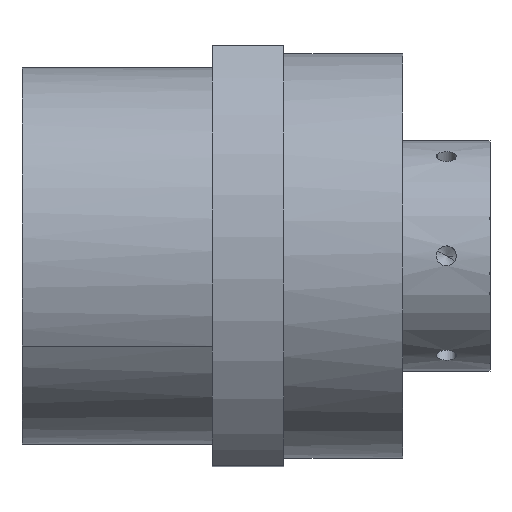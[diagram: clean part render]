
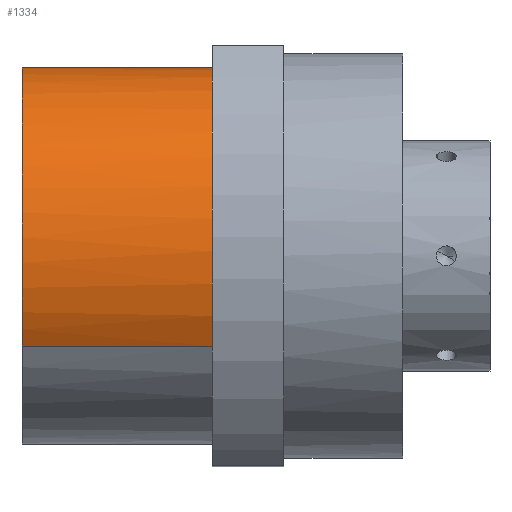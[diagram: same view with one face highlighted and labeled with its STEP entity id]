
A CAD part, top view. The second image highlights one B-rep face of the part: STEP entity #1334.
In plain terms, the highlighted cylindrical face has radius 47.5 mm (diameter 95 mm), a partial arc.
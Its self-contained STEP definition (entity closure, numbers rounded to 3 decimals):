
#697=CARTESIAN_POINT('Vertex',(-66.,-22.773,41.685)) ;
#699=CARTESIAN_POINT('Vertex',(-66.,22.773,-41.685)) ;
#703=CARTESIAN_POINT('Control Point',(-66.,22.773,-41.685)) ;
#704=CARTESIAN_POINT('Control Point',(-66.,26.625,-39.581)) ;
#705=CARTESIAN_POINT('Control Point',(-66.,30.234,-37.032)) ;
#706=CARTESIAN_POINT('Control Point',(-66.,33.531,-34.075)) ;
#707=CARTESIAN_POINT('Control Point',(-66.,39.383,-27.453)) ;
#708=CARTESIAN_POINT('Control Point',(-66.,43.571,-19.672)) ;
#709=CARTESIAN_POINT('Control Point',(-66.,45.205,-15.555)) ;
#710=CARTESIAN_POINT('Control Point',(-66.,47.491,-7.019)) ;
#711=CARTESIAN_POINT('Control Point',(-66.,47.772,1.814)) ;
#712=CARTESIAN_POINT('Control Point',(-66.,47.399,6.227)) ;
#713=CARTESIAN_POINT('Control Point',(-66.,45.64,14.887)) ;
#714=CARTESIAN_POINT('Control Point',(-66.,41.954,22.918)) ;
#715=CARTESIAN_POINT('Control Point',(-66.,39.653,26.703)) ;
#716=CARTESIAN_POINT('Control Point',(-66.,34.219,33.671)) ;
#717=CARTESIAN_POINT('Control Point',(-66.,27.339,39.217)) ;
#718=CARTESIAN_POINT('Control Point',(-66.,23.592,41.579)) ;
#719=CARTESIAN_POINT('Control Point',(-66.,15.621,45.394)) ;
#720=CARTESIAN_POINT('Control Point',(-66.,6.991,47.292)) ;
#721=CARTESIAN_POINT('Control Point',(-66.,2.584,47.736)) ;
#722=CARTESIAN_POINT('Control Point',(-66.,-5.366,47.612)) ;
#723=CARTESIAN_POINT('Control Point',(-66.,-13.102,45.86)) ;
#724=CARTESIAN_POINT('Control Point',(-66.,-16.458,44.766)) ;
#725=CARTESIAN_POINT('Control Point',(-66.,-19.693,43.368)) ;
#726=CARTESIAN_POINT('Control Point',(-66.,-22.773,41.685)) ;
#1292=CARTESIAN_POINT('Line Origine',(-84.861,22.773,-41.685)) ;
#1296=CARTESIAN_POINT('Vertex',(-18.,22.773,-41.685)) ;
#1303=CARTESIAN_POINT('Vertex',(-18.,-22.773,41.685)) ;
#1306=CARTESIAN_POINT('Line Origine',(-84.861,-22.773,41.685)) ;
#1318=CARTESIAN_POINT('Axis2P3D Location',(-84.861,0.,0.)) ;
#1323=CARTESIAN_POINT('Axis2P3D Location',(-18.,0.,0.)) ;
#1293=DIRECTION('Vector Direction',(1.,0.,0.)) ;
#1307=DIRECTION('Vector Direction',(1.,0.,0.)) ;
#1319=DIRECTION('Axis2P3D Direction',(1.,0.,0.)) ;
#1320=DIRECTION('Axis2P3D XDirection',(0.,0.479,-0.878)) ;
#1324=DIRECTION('Axis2P3D Direction',(1.,0.,0.)) ;
#1321=AXIS2_PLACEMENT_3D('Cylinder Axis2P3D',#1318,#1319,#1320) ;
#1325=AXIS2_PLACEMENT_3D('Circle Axis2P3D',#1323,#1324,$) ;
#1329=ORIENTED_EDGE('',*,*,#1310,.F.) ;
#1330=ORIENTED_EDGE('',*,*,#1327,.F.) ;
#1331=ORIENTED_EDGE('',*,*,#1298,.T.) ;
#1332=ORIENTED_EDGE('',*,*,#727,.T.) ;
#1294=VECTOR('Line Direction',#1293,1.) ;
#1308=VECTOR('Line Direction',#1307,1.) ;
#1334=ADVANCED_FACE('WBK40DFF(H)',(#1333),#1322,.T.) ;
#702=B_SPLINE_CURVE_WITH_KNOTS('',5,(#703,#704,#705,#706,#707,#708,#709,#710,#711,#712,#713,#714,#715,#716,#717,#718,#719,#720,#721,#722,#723,#724,#725,#726),.UNSPECIFIED.,.F.,.U.,(6,3,3,3,3,3,3,6),(0.,31.037,62.074,93.11,124.147,155.184,186.221,211.035),.UNSPECIFIED.) ;
#1326=CIRCLE('generated circle',#1325,47.5) ;
#1322=CYLINDRICAL_SURFACE('generated cylinder',#1321,47.5) ;
#727=EDGE_CURVE('',#700,#698,#702,.T.) ;
#1298=EDGE_CURVE('',#1297,#700,#1295,.F.) ;
#1310=EDGE_CURVE('',#1304,#698,#1309,.F.) ;
#1327=EDGE_CURVE('',#1297,#1304,#1326,.T.) ;
#1328=EDGE_LOOP('',(#1329,#1330,#1331,#1332)) ;
#1333=FACE_OUTER_BOUND('',#1328,.T.) ;
#1295=LINE('Line',#1292,#1294) ;
#1309=LINE('Line',#1306,#1308) ;
#698=VERTEX_POINT('',#697) ;
#700=VERTEX_POINT('',#699) ;
#1297=VERTEX_POINT('',#1296) ;
#1304=VERTEX_POINT('',#1303) ;
